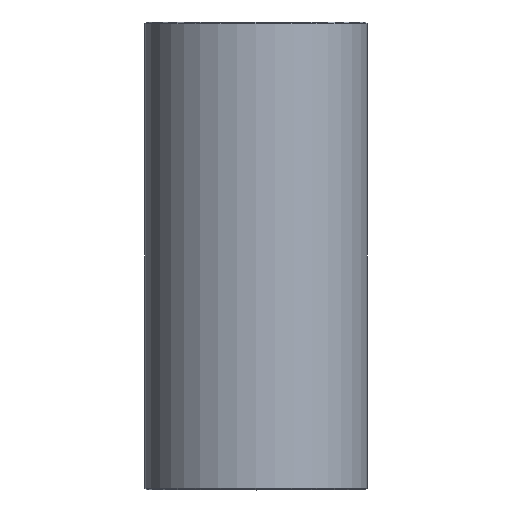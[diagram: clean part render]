
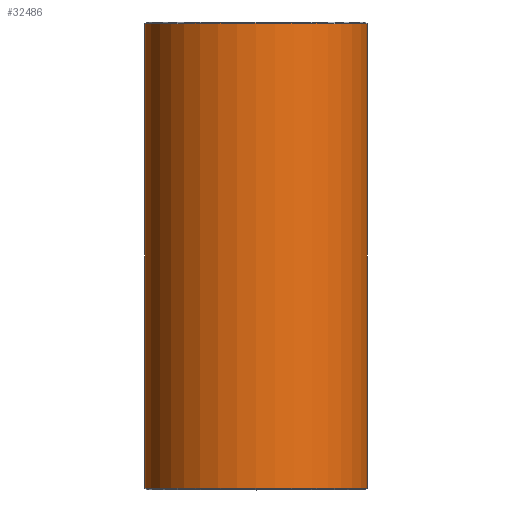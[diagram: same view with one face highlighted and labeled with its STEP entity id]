
A CAD part, top view. The second image highlights one B-rep face of the part: STEP entity #32486.
In plain terms, the highlighted cylindrical face has radius 15.25 mm (diameter 30.5 mm), a partial arc.
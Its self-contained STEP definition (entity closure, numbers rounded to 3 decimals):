
#14266=CARTESIAN_POINT('',(0.,0.2,0.));
#14267=DIRECTION('',(0.,-1.,0.));
#14268=DIRECTION('',(1.,0.,0.));
#14269=AXIS2_PLACEMENT_3D('',#14266,#14267,#14268);
#14271=DIRECTION('',(0.,1.,0.));
#14272=VECTOR('',#14271,63.6);
#14273=CARTESIAN_POINT('',(-15.25,0.2,
0.));
#14274=LINE('',#14273,#14272);
#14275=CARTESIAN_POINT('',(0.,63.8,0.));
#14276=DIRECTION('',(0.,1.,0.));
#14277=DIRECTION('',(-1.,0.,0.));
#14278=AXIS2_PLACEMENT_3D('',#14275,#14276,#14277);
#14293=DIRECTION('',(0.,1.,0.));
#14294=VECTOR('',#14293,63.6);
#14295=CARTESIAN_POINT('',(15.25,0.2,
0.));
#14296=LINE('',#14295,#14294);
#14474=CARTESIAN_POINT('',(-15.25,0.2,0.));
#14475=CARTESIAN_POINT('',(15.25,0.2,0.));
#14476=VERTEX_POINT('',#14474);
#14477=VERTEX_POINT('',#14475);
#14482=CARTESIAN_POINT('',(15.25,63.8,0.));
#14483=CARTESIAN_POINT('',(-15.25,63.8,0.));
#14484=VERTEX_POINT('',#14482);
#14485=VERTEX_POINT('',#14483);
#32472=CARTESIAN_POINT('',(0.,0.,0.));
#32473=DIRECTION('',(0.,1.,0.));
#32474=DIRECTION('',(1.,0.,0.));
#32475=AXIS2_PLACEMENT_3D('',#32472,#32473,#32474);
#32476=CYLINDRICAL_SURFACE('',#32475,15.25);
#32478=ORIENTED_EDGE('',*,*,#32477,.T.);
#32480=ORIENTED_EDGE('',*,*,#32479,.T.);
#32481=ORIENTED_EDGE('',*,*,#32466,.T.);
#32483=ORIENTED_EDGE('',*,*,#32482,.F.);
#32484=EDGE_LOOP('',(#32478,#32480,#32481,#32483));
#32485=FACE_OUTER_BOUND('',#32484,.F.);
#32486=ADVANCED_FACE('',(#32485),#32476,.T.);
#14270=CIRCLE('',#14269,15.25);
#14279=CIRCLE('',#14278,15.25);
#32466=EDGE_CURVE('',#14485,#14484,#14279,.T.);
#32477=EDGE_CURVE('',#14477,#14476,#14270,.T.);
#32479=EDGE_CURVE('',#14476,#14485,#14274,.T.);
#32482=EDGE_CURVE('',#14477,#14484,#14296,.T.);
